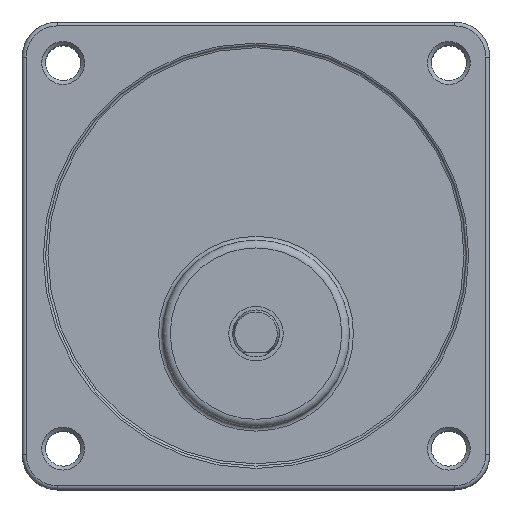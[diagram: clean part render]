
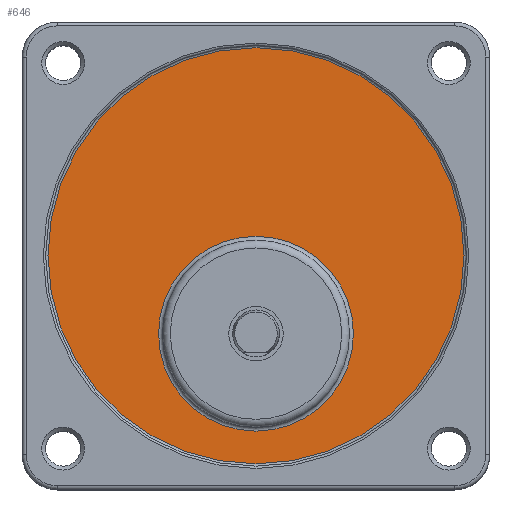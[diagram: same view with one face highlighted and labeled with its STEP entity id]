
A CAD part, top view. The second image highlights one B-rep face of the part: STEP entity #646.
In plain terms, the highlighted planar face has unit normal (0, 0, 1).
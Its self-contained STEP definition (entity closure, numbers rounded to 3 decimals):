
#595=CARTESIAN_POINT('',(42.5,20.0,34.2));
#596=VERTEX_POINT('',#595);
#597=CARTESIAN_POINT('',(30.,20.0,34.2));
#598=DIRECTION('',(0.0,0.0,1.0));
#599=DIRECTION('',(-1.0,0.0,0.0));
#600=AXIS2_PLACEMENT_3D('',#597,#598,#599);
#601=CIRCLE('',#600,12.5);
#602=EDGE_CURVE('',#596,#596,#601,.T.);
#627=CARTESIAN_POINT('',(30.,30.0,34.2));
#628=DIRECTION('',(0.0,0.0,-1.0));
#629=DIRECTION('',(-1.0,0.0,0.0));
#630=AXIS2_PLACEMENT_3D('',#627,#628,#629);
#631=PLANE('',#630);
#632=CARTESIAN_POINT('',(56.699,30.0,34.2));
#633=VERTEX_POINT('',#632);
#634=CARTESIAN_POINT('',(30.,30.0,34.2));
#635=DIRECTION('',(0.0,0.0,-1.0));
#636=DIRECTION('',(-1.0,0.0,0.0));
#637=AXIS2_PLACEMENT_3D('',#634,#635,#636);
#638=CIRCLE('',#637,26.699);
#639=EDGE_CURVE('',#633,#633,#638,.T.);
#640=ORIENTED_EDGE('',*,*,#639,.F.);
#641=EDGE_LOOP('',(#640));
#642=FACE_OUTER_BOUND('',#641,.T.);
#643=ORIENTED_EDGE('',*,*,#602,.F.);
#644=EDGE_LOOP('',(#643));
#645=FACE_BOUND('',#644,.T.);
#646=ADVANCED_FACE('',(#642,#645),#631,.F.);
